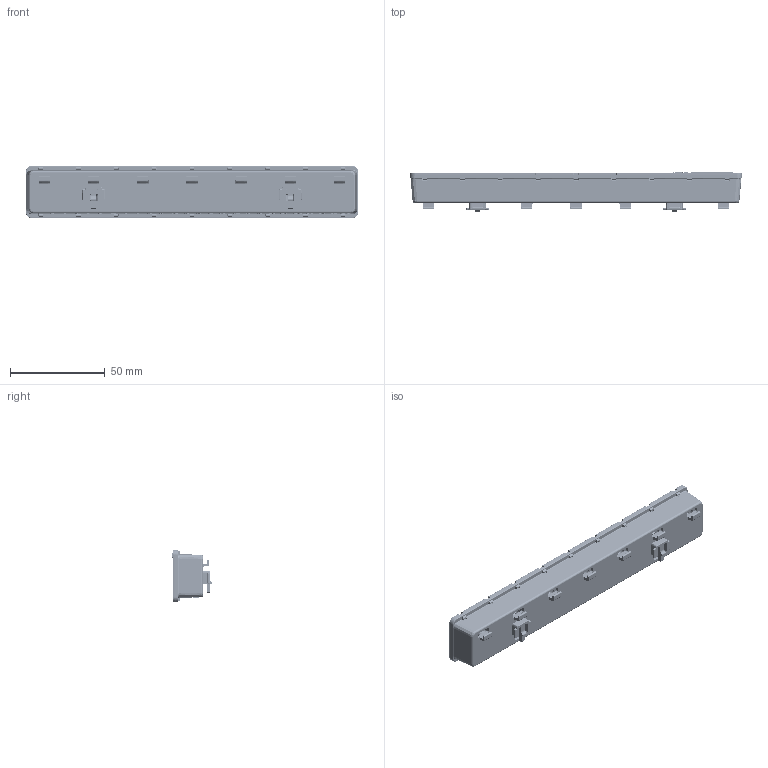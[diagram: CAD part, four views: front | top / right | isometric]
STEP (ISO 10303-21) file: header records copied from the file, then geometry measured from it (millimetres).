
FILE_DESCRIPTION (( 'STEP AP214' ), '1' );
FILE_NAME ('岭铌 觌屐祉 忤眚钼铋 OptiBox Pro N, PE -1,5-16-26.STEP', '2024-11-07T10:30:18', ( '' ), ( '' ), 'SwSTEP 2.0', 'SolidWorks 2018', '' );
FILE_SCHEMA (( 'AUTOMOTIVE_DESIGN' ));
Length unit declared in the file: millimetre
Products named in the file (7): G32-00-P000___; G08-03-P000 V1.9___; M5x8___; M4x8___; G08-01-P000 V1.9___; 岭铌 觌屐祉 忤眚钼铋 OptiBox Pro N, PE -1,5-16-26; G08-02-P000 V1.9___
Assembly tree (30 placements, depth 3):
  岭铌 觌屐祉 忤眚钼铋 OptiBox Pro N, PE -1,5-16-26
    G08-02-P000 V1.9___
    G08-01-P000 V1.9___
    G32-00-P000___
      G08-03-P000 V1.9___
      M4x8___  x15
      M5x8___  x11
Bounding box: 175.6 x 21.25 x 27.6 mm (x, y, z)
Volume: 32260.1 mm3; surface area: 47460.9 mm2
Topology: 29 solids, 29 shells, 7314 faces, 20242 edges, 13086 vertices
Faces by surface type: plane 3272, cylinder 1805, bspline 1444, torus 390, sphere 208, cone 195
Entity records: 157821 total; most frequent: CARTESIAN_POINT 68564, ORIENTED_EDGE 20232, DIRECTION 15506, EDGE_CURVE 10116, LINE 7392, VECTOR 7392, VERTEX_POINT 6614, AXIS2_PLACEMENT_3D 4057
